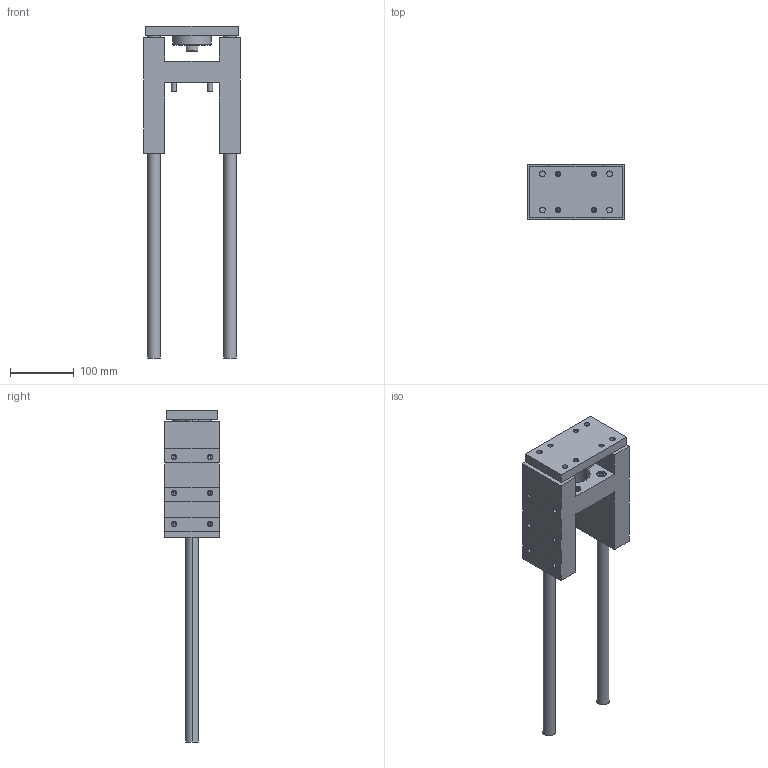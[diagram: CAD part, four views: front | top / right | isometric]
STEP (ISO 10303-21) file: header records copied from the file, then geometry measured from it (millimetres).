
FILE_DESCRIPTION (( 'STEP AP203' ), '1' );
FILE_NAME ('GB63-300.STEP', '2020-04-24T13:23:47', ( '' ), ( '' ), 'SwSTEP 2.0', 'SolidWorks 2019', '' );
FILE_SCHEMA (( 'CONFIG_CONTROL_DESIGN' ));
Length unit declared in the file: millimetre
Products named in the file (1): GB63-300
Bounding box: 152 x 85 x 520 mm (x, y, z)
Volume: 1613373.7 mm3; surface area: 251904.4 mm2
Topology: 6 solids, 6 shells, 363 faces, 814 edges, 462 vertices
Faces by surface type: cone 146, plane 115, cylinder 102
Entity records: 10453 total; most frequent: CARTESIAN_POINT 2284, DIRECTION 1812, ORIENTED_EDGE 1556, EDGE_CURVE 778, AXIS2_PLACEMENT_3D 702, VERTEX_POINT 462, EDGE_LOOP 428, VECTOR 408
